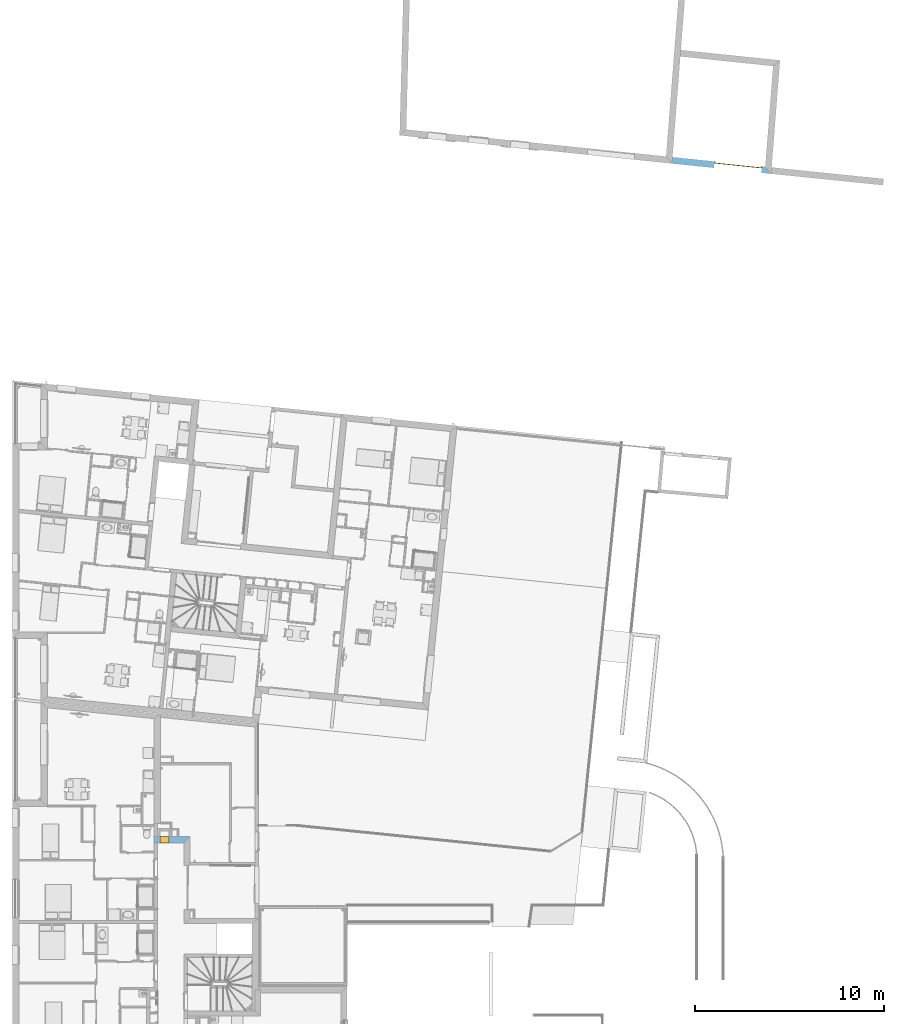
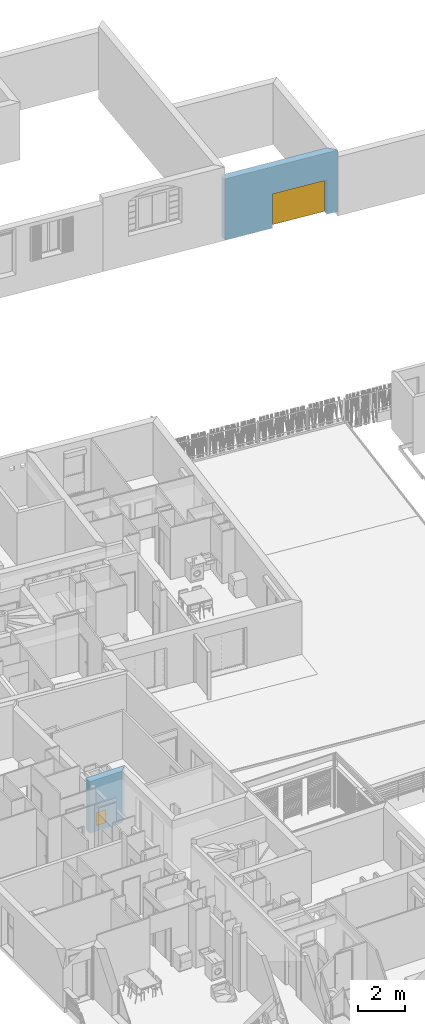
# One storey, part 115 of 171: 2 doors, 2 openings, plus 2 elements that do not belong to this part.
"""IFC2X3 building model written with IfcOpenShell, lengths in millimetres."""

from ifc_helpers import new_model, entity, si_unit, converted_unit, derived_unit, money_unit, direction, frame, origin_with_axes, origin_2d_with_axis, place, context, subcontext, project, spatial, polyline, rectangle, outline, extrude, faceted_brep, material, layer, layer_set, layer_usage, type_object, element, fill, save


model = new_model("IFC2X3")

# Units and contexts
model_context = context("Model", 3, precision=0.01, world=origin_with_axes(), true_north=direction((0.0, 1.0)))
body_context = subcontext(model_context, "Body", "Model", "MODEL_VIEW")
ifc_project = project(units=[si_unit("LENGTHUNIT", "METRE", prefix="MILLI"), si_unit("AREAUNIT", "SQUARE_METRE"), si_unit("VOLUMEUNIT", "CUBIC_METRE"), converted_unit("PLANEANGLEUNIT", "DEGREE", entity("IfcPlaneAngleMeasure", 0.0174532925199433), si_unit("PLANEANGLEUNIT", "RADIAN"), dimensions=[0, 0, 0, 0, 0, 0, 0]), money_unit("USD"), converted_unit("TIMEUNIT", "Year", entity("IfcTimeMeasure", 31557600.0), si_unit("TIMEUNIT", "SECOND"), dimensions=[0, 0, 1, 0, 0, 0, 0]), si_unit("MASSUNIT", "GRAM", prefix="KILO"), si_unit("THERMODYNAMICTEMPERATUREUNIT", "DEGREE_CELSIUS"), si_unit("LUMINOUSINTENSITYUNIT", "LUMEN"), si_unit("ENERGYUNIT", "JOULE", prefix="MEGA"), derived_unit("THERMALCONDUCTANCEUNIT", [(si_unit("POWERUNIT", "WATT"), 1), (si_unit("LENGTHUNIT", "METRE"), -1), (si_unit("THERMODYNAMICTEMPERATUREUNIT", "KELVIN"), -1)]), derived_unit("SPECIFICHEATCAPACITYUNIT", [(si_unit("ENERGYUNIT", "JOULE"), 1), (si_unit("MASSUNIT", "GRAM", prefix="KILO"), -1), (si_unit("THERMODYNAMICTEMPERATUREUNIT", "KELVIN"), -1)]), derived_unit("MASSDENSITYUNIT", [(si_unit("MASSUNIT", "GRAM", prefix="KILO"), 1), (si_unit("VOLUMEUNIT", "CUBIC_METRE"), -1)])], contexts=[model_context])

# Site, building, storey
site_placement = place(None, origin_with_axes())
site = spatial("IfcSite", under=ifc_project, at=site_placement, Name="Site", CompositionType="ELEMENT")
building_placement = place(site_placement, origin_with_axes())
building = spatial("IfcBuilding", under=site, at=building_placement, Name="Bâtiment", CompositionType="ELEMENT")
storey_placement = place(building_placement, frame((0.0, 0.0, 3000.0), z_axis=(0.0, 0.0, 1.0), x_axis=(1.0, 0.0, 0.0)))
storey = spatial("IfcBuildingStorey", under=building, at=storey_placement, Name="rdc", CompositionType="ELEMENT", Elevation=3000.0)

# Wall, opening, door
ifc_material_1 = material(Name="Parpaing 312445824")
ifc_layer_1 = layer(ifc_material_1, 180.0, ventilated="UNKNOWN")
ifc_material_2 = material(Name="Isolant styromousse 301821074")
ifc_layer_2 = layer(ifc_material_2, 140.0, ventilated="UNKNOWN")
ifc_layer_set_1 = layer_set([ifc_layer_1, ifc_layer_2], Name="isol int 18+14")
ifc_layer_usage_1 = layer_usage(ifc_layer_set_1, "AXIS2", "POSITIVE", 0.0)
wall_type_1 = type_object("IfcWallType", Name="isol int 18+14 320", PredefinedType="NOTDEFINED")
wall_1_placement = place(storey_placement, frame((2224132.356370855, -628327.4571735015, 0.0), z_axis=(0.0, 0.0, 1.0), x_axis=(1.0, 0.0, 0.0)))
wall_1 = element("IfcWallStandardCase", 1, at=wall_1_placement, inside=storey, type_object=wall_type_1, material=ifc_layer_usage_1, Name="Mur-142", context=body_context, shape_type="SweptSolid", body=[
    extrude(outline(polyline([(0.0, 0.0), (1579.961985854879, 0.0), (1899.961985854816, 320.0000000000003), (0.0, 320.0000000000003), (0.0, 0.0)])), origin_with_axes(), (0.0, 0.0, 1.0), 2700.0),
])
opening_1_placement = place(wall_1_placement, frame((549.3943914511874, 0.0, 299.9999999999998), z_axis=(0.0, 0.0, 1.0), x_axis=(1.0, 0.0, 0.0)))
opening_1 = element("IfcOpeningElement", 2, at=opening_1_placement, cuts=wall_1, Name="Por-242", context=body_context, shape_type="SweptSolid", body=[
    extrude(rectangle(XDim=489.9999985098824, YDim=669.9999999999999, at=origin_2d_with_axis()), frame((7.451035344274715e-07, 320.0000000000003, 334.9999999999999), z_axis=(0.0, -1.0, 0.0), x_axis=(-1.0, 0.0, 0.0)), (0.0, 0.0, 1.0), 640.0),
])
door_style_1 = type_object("IfcDoorStyle", Name="Porte_1v", ConstructionType="NOTDEFINED", OperationType="NOTDEFINED", ParameterTakesPrecedence=False, Sizeable=False)
door_1_placement = place(opening_1_placement, frame((225.0000000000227, 0.0, 0.0), z_axis=(0.0, 0.0, 1.0), x_axis=(-1.0, 0.0, 0.0)))
door_1 = element("IfcDoor", 3, at=door_1_placement, inside=storey, type_object=door_style_1, Name="Por-242", OverallHeight=650.0, OverallWidth=450.0, context=body_context, shape_type="Brep", body=[
    faceted_brep([(470.0000000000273, 0.0, 0.0), (450.0000000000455, 0.0, 0.0), (450.0000000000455, 0.0, 649.9999999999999), (0.0, 0.0, 649.9999999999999), (0.0, 0.0, 0.0), (-19.99999999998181, 0.0, 0.0), (-19.99999999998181, 0.0, 669.9999999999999), (470.0000000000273, 0.0, 669.9999999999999), (470.0000000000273, -320.0000000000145, 0.0), (435.0000000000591, -320.0000000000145, 0.0), (435.0000000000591, -15.00000000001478, 0.0), (450.0000000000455, -15.00000000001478, 0.0), (450.0000000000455, -15.00000000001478, 649.9999999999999), (0.0, -15.00000000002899, 649.9999999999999), (0.0, -15.00000000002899, 0.0), (14.99999999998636, -15.00000000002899, 0.0), (14.99999999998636, -320.0000000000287, 0.0), (-19.99999999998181, -320.0000000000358, 0.0), (-19.99999999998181, -320.0000000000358, 669.9999999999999), (470.0000000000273, -320.0000000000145, 669.9999999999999), (14.99999999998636, -320.0000000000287, 634.9999999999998), (435.0000000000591, -320.0000000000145, 634.9999999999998), (435.0000000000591, -15.00000000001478, 634.9999999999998), (14.99999999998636, -15.00000000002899, 634.9999999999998)], [[[0, 1, 2, 3, 4, 5, 6, 7]], [[0, 8, 9, 10, 11, 1]], [[1, 11, 12, 2]], [[2, 12, 13, 3]], [[3, 13, 14, 4]], [[5, 4, 14, 15, 16, 17]], [[18, 6, 5, 17]], [[19, 7, 6, 18]], [[8, 0, 7, 19]], [[9, 8, 19, 18, 17, 16, 20, 21]], [[10, 9, 21, 22]], [[11, 10, 22, 23, 15, 14, 13, 12]], [[23, 20, 16, 15]], [[22, 21, 20, 23]]]),
    faceted_brep([(0.0, 4.999999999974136, 0.0), (450.0000000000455, 4.999999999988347, 0.0), (450.0000000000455, -15.00000000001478, 0.0), (0.0, -15.00000000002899, 0.0), (0.0, 4.999999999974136, 649.9999999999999), (450.0000000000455, 4.999999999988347, 649.9999999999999), (450.0000000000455, -15.00000000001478, 649.9999999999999), (0.0, -15.00000000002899, 649.9999999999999)], [[[0, 1, 2, 3]], [[0, 4, 5, 1]], [[1, 5, 6, 2]], [[3, 2, 6, 7]], [[4, 0, 3, 7]], [[5, 4, 7, 6]]]),
])
fill(opening_1, door_1)

ifc_material_3 = material(Name="Empty Fill 272047960")
ifc_layer_3 = layer(ifc_material_3, 339.9999999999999, ventilated="UNKNOWN")
ifc_layer_set_2 = layer_set([ifc_layer_3], Name="Empty Fill 272047960 340")
ifc_layer_usage_2 = layer_usage(ifc_layer_set_2, "AXIS2", "POSITIVE", 0.0)
wall_type_2 = type_object("IfcWallType", Name="Empty Fill 272047960 340", PredefinedType="NOTDEFINED")
wall_2_placement = place(storey_placement, frame((2251563.241222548, -592341.9661351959, -500.0), z_axis=(0.0, 0.0, 1.0), x_axis=(0.9946781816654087, -0.1030306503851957, 0.0)))
wall_2 = element("IfcWallStandardCase", 4, at=wall_2_placement, inside=storey, type_object=wall_type_2, material=ifc_layer_usage_2, Name="Mur-143", context=body_context, shape_type="SweptSolid", body=[
    extrude(outline(polyline([(0.0, 0.0), (5282.223226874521, 0.0), (4933.546594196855, 340.0000000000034), (-8.560349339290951, 340.0000000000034), (0.0, 0.0)])), origin_with_axes(), (0.0, 0.0, 1.0), 3200.0),
])
opening_2_placement = place(wall_2_placement, frame((3498.546069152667, 0.0, 0.0), z_axis=(0.0, 0.0, 1.0), x_axis=(1.0, 0.0, 0.0)))
opening_2 = element("IfcOpeningElement", 5, at=opening_2_placement, cuts=wall_2, Name="Por-286", context=body_context, shape_type="SweptSolid", body=[
    extrude(rectangle(XDim=2536.579724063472, YDim=1795.971414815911, at=origin_2d_with_axis()), frame((0.0, 339.9999999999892, 897.9857074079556), z_axis=(0.0, -1.0, 0.0), x_axis=(1.0, 0.0, 0.0)), (0.0, 0.0, -1.0), 339.9999999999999),
    extrude(rectangle(XDim=2536.579724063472, YDim=1795.971414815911, at=origin_2d_with_axis()), frame((0.0, 339.9999999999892, 897.9857074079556), z_axis=(0.0, 1.0, 0.0), x_axis=(1.0, 0.0, 0.0)), (0.0, 0.0, -1.0), 339.9999999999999),
])
door_style_2 = type_object("IfcDoorStyle", Name="P_garage 2", ConstructionType="NOTDEFINED", OperationType="NOTDEFINED", ParameterTakesPrecedence=False, Sizeable=False)
door_2_placement = place(opening_2_placement, frame((1268.28986203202, 0.0, 0.0), z_axis=(0.0, 0.0, 1.0), x_axis=(-1.0, 0.0, 0.0)))
door_2 = element("IfcDoor", 6, at=door_2_placement, inside=storey, type_object=door_style_2, Name="Por-286", OverallHeight=1795.97, OverallWidth=2536.58, context=body_context, shape_type="Brep", body=[
    faceted_brep([(1.13686837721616e-10, -239.9999999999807, 0.0), (50.0000000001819, -239.9999999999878, 0.0), (50.0000000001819, -339.9999999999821, 0.0), (2.273736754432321e-10, -339.9999999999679, 0.0), (1.13686837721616e-10, -239.9999999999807, 1795.971414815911), (2536.579724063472, -239.9999999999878, 1795.971414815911), (2536.579724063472, -239.9999999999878, 0.0), (2486.579724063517, -239.9999999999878, 0.0), (2486.579724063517, -239.9999999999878, 1745.971414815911), (50.0000000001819, -239.9999999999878, 1745.971414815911), (50.0000000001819, -339.9999999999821, 1745.971414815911), (2486.579724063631, -339.9999999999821, 1745.971414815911), (2486.579724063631, -339.9999999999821, 0.0), (2536.579724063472, -339.9999999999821, 0.0), (2536.579724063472, -339.9999999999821, 1795.971414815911), (2.273736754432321e-10, -339.9999999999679, 1795.971414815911)], [[[0, 1, 2, 3]], [[0, 4, 5, 6, 7, 8, 9, 1]], [[1, 9, 10, 2]], [[3, 2, 10, 11, 12, 13, 14, 15]], [[4, 0, 3, 15]], [[5, 4, 15, 14]], [[6, 5, 14, 13]], [[7, 6, 13, 12]], [[8, 7, 12, 11]], [[9, 8, 11, 10]]]),
    faceted_brep([(2486.579724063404, -279.9999999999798, 0.0), (2486.579724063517, -266.6666666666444, 0.0), (2486.579724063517, -266.6666666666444, 93.29243616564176), (2486.579724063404, -279.9999999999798, 93.29243616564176), (50.00000000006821, -279.9999999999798, 0.0), (50.00000000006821, -266.6666666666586, 0.0), (50.00000000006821, -266.6666666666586, 93.29243616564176), (50.00000000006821, -279.9999999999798, 93.29243616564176)], [[[0, 1, 2, 3]], [[4, 5, 1, 0]], [[1, 5, 6, 2]], [[3, 2, 6, 7]], [[0, 3, 7, 4]], [[7, 6, 5, 4]]]),
    faceted_brep([(2486.579724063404, -279.9999999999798, 103.292436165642), (2486.579724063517, -266.6666666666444, 103.292436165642), (2486.579724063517, -266.6666666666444, 196.5848723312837), (2486.579724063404, -279.9999999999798, 196.5848723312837), (50.00000000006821, -279.9999999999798, 103.292436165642), (50.00000000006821, -266.6666666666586, 103.292436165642), (50.00000000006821, -266.6666666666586, 196.5848723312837), (50.00000000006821, -279.9999999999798, 196.5848723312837)], [[[0, 1, 2, 3]], [[4, 5, 1, 0]], [[1, 5, 6, 2]], [[3, 2, 6, 7]], [[0, 3, 7, 4]], [[7, 6, 5, 4]]]),
    faceted_brep([(2486.579724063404, -279.9999999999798, 206.5848723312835), (2486.579724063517, -266.6666666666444, 206.5848723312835), (2486.579724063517, -266.6666666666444, 299.8773084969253), (2486.579724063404, -279.9999999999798, 299.8773084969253), (50.00000000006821, -279.9999999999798, 206.5848723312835), (50.00000000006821, -266.6666666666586, 206.5848723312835), (50.00000000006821, -266.6666666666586, 299.8773084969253), (50.00000000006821, -279.9999999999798, 299.8773084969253)], [[[0, 1, 2, 3]], [[4, 5, 1, 0]], [[1, 5, 6, 2]], [[3, 2, 6, 7]], [[0, 3, 7, 4]], [[7, 6, 5, 4]]]),
    faceted_brep([(2486.579724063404, -279.9999999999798, 309.8773084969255), (2486.579724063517, -266.6666666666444, 309.8773084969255), (2486.579724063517, -266.6666666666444, 403.1697446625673), (2486.579724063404, -279.9999999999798, 403.1697446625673), (50.00000000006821, -279.9999999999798, 309.8773084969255), (50.00000000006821, -266.6666666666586, 309.8773084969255), (50.00000000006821, -266.6666666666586, 403.1697446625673), (50.00000000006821, -279.9999999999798, 403.1697446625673)], [[[0, 1, 2, 3]], [[4, 5, 1, 0]], [[1, 5, 6, 2]], [[3, 2, 6, 7]], [[0, 3, 7, 4]], [[7, 6, 5, 4]]]),
    faceted_brep([(2486.579724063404, -279.9999999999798, 413.169744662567), (2486.579724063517, -266.6666666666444, 413.169744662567), (2486.579724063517, -266.6666666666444, 506.4621808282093), (2486.579724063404, -279.9999999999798, 506.4621808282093), (50.00000000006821, -279.9999999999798, 413.169744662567), (50.00000000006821, -266.6666666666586, 413.169744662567), (50.00000000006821, -266.6666666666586, 506.4621808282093), (50.00000000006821, -279.9999999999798, 506.4621808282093)], [[[0, 1, 2, 3]], [[4, 5, 1, 0]], [[1, 5, 6, 2]], [[3, 2, 6, 7]], [[0, 3, 7, 4]], [[7, 6, 5, 4]]]),
    faceted_brep([(2486.579724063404, -279.9999999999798, 516.4621808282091), (2486.579724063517, -266.6666666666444, 516.4621808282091), (2486.579724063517, -266.6666666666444, 609.7546169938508), (2486.579724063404, -279.9999999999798, 609.7546169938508), (50.00000000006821, -279.9999999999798, 516.4621808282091), (50.00000000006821, -266.6666666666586, 516.4621808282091), (50.00000000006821, -266.6666666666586, 609.7546169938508), (50.00000000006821, -279.9999999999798, 609.7546169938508)], [[[0, 1, 2, 3]], [[4, 5, 1, 0]], [[1, 5, 6, 2]], [[3, 2, 6, 7]], [[0, 3, 7, 4]], [[7, 6, 5, 4]]]),
    faceted_brep([(2486.579724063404, -279.9999999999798, 619.7546169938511), (2486.579724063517, -266.6666666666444, 619.7546169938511), (2486.579724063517, -266.6666666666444, 713.0470531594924), (2486.579724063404, -279.9999999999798, 713.0470531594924), (50.00000000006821, -279.9999999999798, 619.7546169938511), (50.00000000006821, -266.6666666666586, 619.7546169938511), (50.00000000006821, -266.6666666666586, 713.0470531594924), (50.00000000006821, -279.9999999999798, 713.0470531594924)], [[[0, 1, 2, 3]], [[4, 5, 1, 0]], [[1, 5, 6, 2]], [[3, 2, 6, 7]], [[0, 3, 7, 4]], [[7, 6, 5, 4]]]),
    faceted_brep([(2486.579724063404, -279.9999999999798, 723.0470531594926), (2486.579724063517, -266.6666666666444, 723.0470531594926), (2486.579724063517, -266.6666666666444, 816.3394893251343), (2486.579724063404, -279.9999999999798, 816.3394893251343), (50.00000000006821, -279.9999999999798, 723.0470531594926), (50.00000000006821, -266.6666666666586, 723.0470531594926), (50.00000000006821, -266.6666666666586, 816.3394893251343), (50.00000000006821, -279.9999999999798, 816.3394893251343)], [[[0, 1, 2, 3]], [[4, 5, 1, 0]], [[1, 5, 6, 2]], [[3, 2, 6, 7]], [[0, 3, 7, 4]], [[7, 6, 5, 4]]]),
    faceted_brep([(2486.579724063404, -279.9999999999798, 826.3394893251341), (2486.579724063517, -266.6666666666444, 826.3394893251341), (2486.579724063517, -266.6666666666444, 919.6319254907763), (2486.579724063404, -279.9999999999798, 919.6319254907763), (50.00000000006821, -279.9999999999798, 826.3394893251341), (50.00000000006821, -266.6666666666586, 826.3394893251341), (50.00000000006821, -266.6666666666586, 919.6319254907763), (50.00000000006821, -279.9999999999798, 919.6319254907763)], [[[0, 1, 2, 3]], [[4, 5, 1, 0]], [[1, 5, 6, 2]], [[3, 2, 6, 7]], [[0, 3, 7, 4]], [[7, 6, 5, 4]]]),
    faceted_brep([(2486.579724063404, -279.9999999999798, 929.6319254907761), (2486.579724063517, -266.6666666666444, 929.6319254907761), (2486.579724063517, -266.6666666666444, 1022.924361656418), (2486.579724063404, -279.9999999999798, 1022.924361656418), (50.00000000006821, -279.9999999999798, 929.6319254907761), (50.00000000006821, -266.6666666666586, 929.6319254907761), (50.00000000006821, -266.6666666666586, 1022.924361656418), (50.00000000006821, -279.9999999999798, 1022.924361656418)], [[[0, 1, 2, 3]], [[4, 5, 1, 0]], [[1, 5, 6, 2]], [[3, 2, 6, 7]], [[0, 3, 7, 4]], [[7, 6, 5, 4]]]),
    faceted_brep([(2486.579724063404, -279.9999999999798, 1032.924361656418), (2486.579724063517, -266.6666666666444, 1032.924361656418), (2486.579724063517, -266.6666666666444, 1126.216797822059), (2486.579724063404, -279.9999999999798, 1126.216797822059), (50.00000000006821, -279.9999999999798, 1032.924361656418), (50.00000000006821, -266.6666666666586, 1032.924361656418), (50.00000000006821, -266.6666666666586, 1126.216797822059), (50.00000000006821, -279.9999999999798, 1126.216797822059)], [[[0, 1, 2, 3]], [[4, 5, 1, 0]], [[1, 5, 6, 2]], [[3, 2, 6, 7]], [[0, 3, 7, 4]], [[7, 6, 5, 4]]]),
    faceted_brep([(2486.579724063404, -279.9999999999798, 1136.21679782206), (2486.579724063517, -266.6666666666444, 1136.21679782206), (2486.579724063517, -266.6666666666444, 1229.509233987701), (2486.579724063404, -279.9999999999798, 1229.509233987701), (50.00000000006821, -279.9999999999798, 1136.21679782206), (50.00000000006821, -266.6666666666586, 1136.21679782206), (50.00000000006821, -266.6666666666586, 1229.509233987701), (50.00000000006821, -279.9999999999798, 1229.509233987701)], [[[0, 1, 2, 3]], [[4, 5, 1, 0]], [[1, 5, 6, 2]], [[3, 2, 6, 7]], [[0, 3, 7, 4]], [[7, 6, 5, 4]]]),
    faceted_brep([(2486.579724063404, -279.9999999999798, 1239.509233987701), (2486.579724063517, -266.6666666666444, 1239.509233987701), (2486.579724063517, -266.6666666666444, 1332.801670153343), (2486.579724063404, -279.9999999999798, 1332.801670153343), (50.00000000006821, -279.9999999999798, 1239.509233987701), (50.00000000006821, -266.6666666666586, 1239.509233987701), (50.00000000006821, -266.6666666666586, 1332.801670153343), (50.00000000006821, -279.9999999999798, 1332.801670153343)], [[[0, 1, 2, 3]], [[4, 5, 1, 0]], [[1, 5, 6, 2]], [[3, 2, 6, 7]], [[0, 3, 7, 4]], [[7, 6, 5, 4]]]),
    faceted_brep([(2486.579724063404, -279.9999999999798, 1342.801670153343), (2486.579724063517, -266.6666666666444, 1342.801670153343), (2486.579724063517, -266.6666666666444, 1436.094106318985), (2486.579724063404, -279.9999999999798, 1436.094106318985), (50.00000000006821, -279.9999999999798, 1342.801670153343), (50.00000000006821, -266.6666666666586, 1342.801670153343), (50.00000000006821, -266.6666666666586, 1436.094106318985), (50.00000000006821, -279.9999999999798, 1436.094106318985)], [[[0, 1, 2, 3]], [[4, 5, 1, 0]], [[1, 5, 6, 2]], [[3, 2, 6, 7]], [[0, 3, 7, 4]], [[7, 6, 5, 4]]]),
    faceted_brep([(2486.579724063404, -279.9999999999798, 1446.094106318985), (2486.579724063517, -266.6666666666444, 1446.094106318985), (2486.579724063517, -266.6666666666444, 1539.386542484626), (2486.579724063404, -279.9999999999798, 1539.386542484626), (50.00000000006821, -279.9999999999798, 1446.094106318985), (50.00000000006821, -266.6666666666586, 1446.094106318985), (50.00000000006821, -266.6666666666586, 1539.386542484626), (50.00000000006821, -279.9999999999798, 1539.386542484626)], [[[0, 1, 2, 3]], [[4, 5, 1, 0]], [[1, 5, 6, 2]], [[3, 2, 6, 7]], [[0, 3, 7, 4]], [[7, 6, 5, 4]]]),
    faceted_brep([(2486.579724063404, -279.9999999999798, 1549.386542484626), (2486.579724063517, -266.6666666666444, 1549.386542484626), (2486.579724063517, -266.6666666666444, 1642.678978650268), (2486.579724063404, -279.9999999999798, 1642.678978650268), (50.00000000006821, -279.9999999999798, 1549.386542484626), (50.00000000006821, -266.6666666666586, 1549.386542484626), (50.00000000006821, -266.6666666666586, 1642.678978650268), (50.00000000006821, -279.9999999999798, 1642.678978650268)], [[[0, 1, 2, 3]], [[4, 5, 1, 0]], [[1, 5, 6, 2]], [[3, 2, 6, 7]], [[0, 3, 7, 4]], [[7, 6, 5, 4]]]),
    faceted_brep([(2486.579724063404, -279.9999999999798, 1652.678978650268), (2486.579724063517, -266.6666666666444, 1652.678978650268), (2486.579724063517, -266.6666666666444, 1745.971414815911), (2486.579724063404, -279.9999999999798, 1745.971414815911), (50.00000000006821, -279.9999999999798, 1652.678978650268), (50.00000000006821, -266.6666666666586, 1652.678978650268), (50.00000000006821, -266.6666666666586, 1745.971414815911), (50.00000000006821, -279.9999999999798, 1745.971414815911)], [[[0, 1, 2, 3]], [[4, 5, 1, 0]], [[1, 5, 6, 2]], [[3, 2, 6, 7]], [[0, 3, 7, 4]], [[7, 6, 5, 4]]]),
    faceted_brep([(50.00000000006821, -266.6666666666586, 0.0), (50.0000000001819, -239.9999999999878, 0.0), (2486.579724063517, -239.9999999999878, 0.0), (2486.579724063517, -266.6666666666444, 0.0), (50.00000000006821, -266.6666666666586, 1745.971414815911), (50.0000000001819, -239.9999999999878, 1745.971414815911), (2486.579724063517, -239.9999999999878, 1745.971414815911), (2486.579724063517, -266.6666666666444, 1745.971414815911)], [[[0, 1, 2, 3]], [[4, 5, 1, 0]], [[1, 5, 6, 2]], [[3, 2, 6, 7]], [[0, 3, 7, 4]], [[7, 6, 5, 4]]]),
])
fill(opening_2, door_2)

save(model, "model.ifc")
